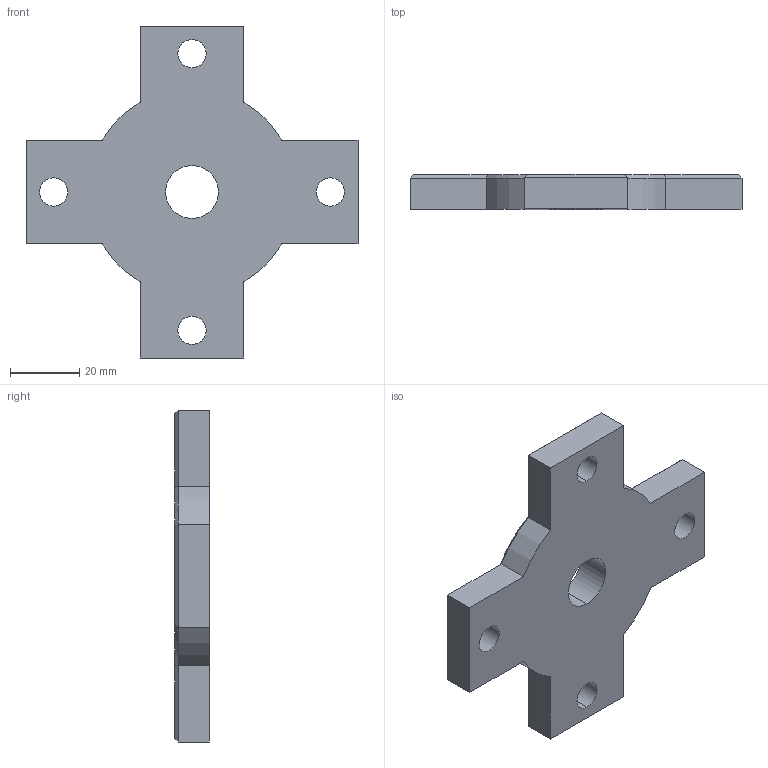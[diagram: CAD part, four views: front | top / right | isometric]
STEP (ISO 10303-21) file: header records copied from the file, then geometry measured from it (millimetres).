
FILE_DESCRIPTION (( 'STEP AP214' ), '1' );
FILE_NAME ('Cone-03-Base 标定针-G38-外螺纹-基座.STEP', '2020-08-20T14:59:54', ( '' ), ( '' ), 'SwSTEP 2.0', 'SolidWorks 2020', '' );
FILE_SCHEMA (( 'AUTOMOTIVE_DESIGN' ));
Length unit declared in the file: millimetre
Products named in the file (1): Cone-03-Base 标定针-G38-外螺纹-基座
Bounding box: 96 x 10 x 96 mm (x, y, z)
Volume: 47319.4 mm3; surface area: 14386.7 mm2
Topology: 1 solids, 1 shells, 44 faces, 110 edges, 68 vertices
Faces by surface type: plane 26, cylinder 14, cone 4
Entity records: 1382 total; most frequent: CARTESIAN_POINT 247, DIRECTION 224, ORIENTED_EDGE 220, EDGE_CURVE 110, AXIS2_PLACEMENT_3D 77, VECTOR 70, LINE 70, VERTEX_POINT 68
